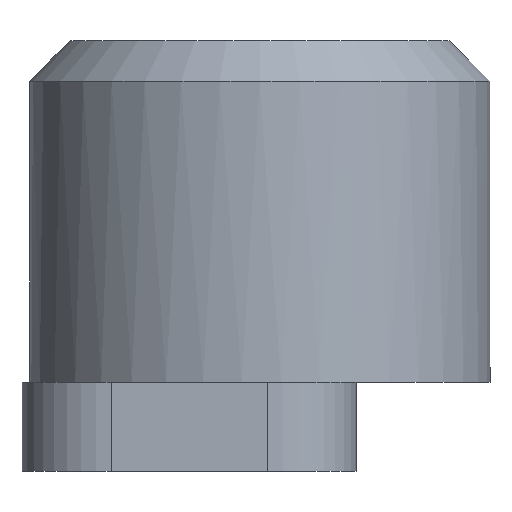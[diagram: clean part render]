
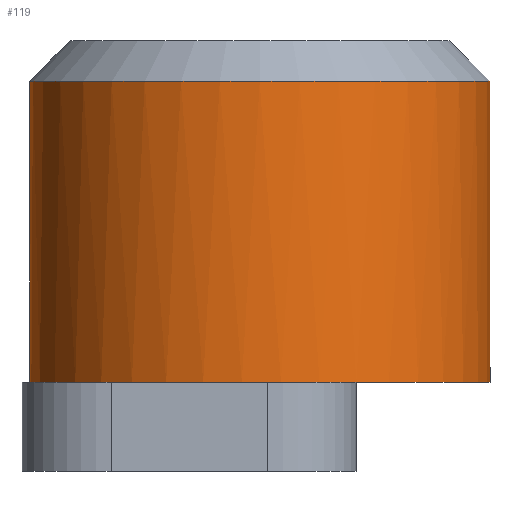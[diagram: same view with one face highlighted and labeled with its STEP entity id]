
A CAD part, left-side view. The second image highlights one B-rep face of the part: STEP entity #119.
In plain terms, the highlighted cylindrical face has radius 3.1 mm (diameter 6.2 mm), a full revolution.
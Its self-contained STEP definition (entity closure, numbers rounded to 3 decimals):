
#39 = EDGE_CURVE('',#40,#40,#42,.T.);
#40 = VERTEX_POINT('',#41);
#41 = CARTESIAN_POINT('',(87.1,74.65,18.2));
#42 = SURFACE_CURVE('',#43,(#48,#59),.PCURVE_S1.);
#43 = CIRCLE('',#44,3.1);
#44 = AXIS2_PLACEMENT_3D('',#45,#46,#47);
#45 = CARTESIAN_POINT('',(84.,74.65,18.2));
#46 = DIRECTION('',(0.,-1.,0.));
#47 = DIRECTION('',(1.,0.,0.));
#48 = PCURVE('',#49,#54);
#49 = CONICAL_SURFACE('',#50,3.1,0.785);
#50 = AXIS2_PLACEMENT_3D('',#51,#52,#53);
#51 = CARTESIAN_POINT('',(84.,74.65,18.2));
#52 = DIRECTION('',(0.,-1.,0.));
#53 = DIRECTION('',(1.,0.,0.));
#54 = DEFINITIONAL_REPRESENTATION('',(#55),#58);
#55 = B_SPLINE_CURVE_WITH_KNOTS('',1,(#56,#57),.UNSPECIFIED.,.F.,.F.,(2,
    2),(0.,6.283),.PIECEWISE_BEZIER_KNOTS.);
#56 = CARTESIAN_POINT('',(0.,0.));
#57 = CARTESIAN_POINT('',(6.283,0.));
#58 = ( GEOMETRIC_REPRESENTATION_CONTEXT(2) 
PARAMETRIC_REPRESENTATION_CONTEXT() REPRESENTATION_CONTEXT('2D SPACE',''
  ) );
#59 = PCURVE('',#60,#65);
#60 = CYLINDRICAL_SURFACE('',#61,3.1);
#61 = AXIS2_PLACEMENT_3D('',#62,#63,#64);
#62 = CARTESIAN_POINT('',(84.,70.6,18.2));
#63 = DIRECTION('',(0.,-1.,0.));
#64 = DIRECTION('',(1.,0.,0.));
#65 = DEFINITIONAL_REPRESENTATION('',(#66),#70);
#66 = LINE('',#67,#68);
#67 = CARTESIAN_POINT('',(0.,-4.05));
#68 = VECTOR('',#69,1.);
#69 = DIRECTION('',(1.,0.));
#70 = ( GEOMETRIC_REPRESENTATION_CONTEXT(2) 
PARAMETRIC_REPRESENTATION_CONTEXT() REPRESENTATION_CONTEXT('2D SPACE',''
  ) );
#119 = ADVANCED_FACE('',(#120),#60,.T.);
#120 = FACE_BOUND('',#121,.T.);
#121 = EDGE_LOOP('',(#122,#145,#174,#203,#225,#226));
#122 = ORIENTED_EDGE('',*,*,#123,.F.);
#123 = EDGE_CURVE('',#124,#40,#126,.T.);
#124 = VERTEX_POINT('',#125);
#125 = CARTESIAN_POINT('',(87.1,70.6,18.2));
#126 = SEAM_CURVE('',#127,(#131,#138),.PCURVE_S1.);
#127 = LINE('',#128,#129);
#128 = CARTESIAN_POINT('',(87.1,70.6,18.2));
#129 = VECTOR('',#130,1.);
#130 = DIRECTION('',(-0.,1.,-0.));
#131 = PCURVE('',#60,#132);
#132 = DEFINITIONAL_REPRESENTATION('',(#133),#137);
#133 = LINE('',#134,#135);
#134 = CARTESIAN_POINT('',(6.283,0.));
#135 = VECTOR('',#136,1.);
#136 = DIRECTION('',(0.,-1.));
#137 = ( GEOMETRIC_REPRESENTATION_CONTEXT(2) 
PARAMETRIC_REPRESENTATION_CONTEXT() REPRESENTATION_CONTEXT('2D SPACE',''
  ) );
#138 = PCURVE('',#60,#139);
#139 = DEFINITIONAL_REPRESENTATION('',(#140),#144);
#140 = LINE('',#141,#142);
#141 = CARTESIAN_POINT('',(0.,0.));
#142 = VECTOR('',#143,1.);
#143 = DIRECTION('',(0.,-1.));
#144 = ( GEOMETRIC_REPRESENTATION_CONTEXT(2) 
PARAMETRIC_REPRESENTATION_CONTEXT() REPRESENTATION_CONTEXT('2D SPACE',''
  ) );
#145 = ORIENTED_EDGE('',*,*,#146,.F.);
#146 = EDGE_CURVE('',#147,#124,#149,.T.);
#147 = VERTEX_POINT('',#148);
#148 = CARTESIAN_POINT('',(81.186,70.6,19.5));
#149 = SURFACE_CURVE('',#150,(#155,#162),.PCURVE_S1.);
#150 = CIRCLE('',#151,3.1);
#151 = AXIS2_PLACEMENT_3D('',#152,#153,#154);
#152 = CARTESIAN_POINT('',(84.,70.6,18.2));
#153 = DIRECTION('',(0.,-1.,0.));
#154 = DIRECTION('',(1.,0.,0.));
#155 = PCURVE('',#60,#156);
#156 = DEFINITIONAL_REPRESENTATION('',(#157),#161);
#157 = LINE('',#158,#159);
#158 = CARTESIAN_POINT('',(0.,0.));
#159 = VECTOR('',#160,1.);
#160 = DIRECTION('',(1.,0.));
#161 = ( GEOMETRIC_REPRESENTATION_CONTEXT(2) 
PARAMETRIC_REPRESENTATION_CONTEXT() REPRESENTATION_CONTEXT('2D SPACE',''
  ) );
#162 = PCURVE('',#163,#168);
#163 = PLANE('',#164);
#164 = AXIS2_PLACEMENT_3D('',#165,#166,#167);
#165 = CARTESIAN_POINT('',(84.,70.6,17.25));
#166 = DIRECTION('',(0.,-1.,0.));
#167 = DIRECTION('',(1.,0.,0.));
#168 = DEFINITIONAL_REPRESENTATION('',(#169),#173);
#169 = CIRCLE('',#170,3.1);
#170 = AXIS2_PLACEMENT_2D('',#171,#172);
#171 = CARTESIAN_POINT('',(0.,0.95));
#172 = DIRECTION('',(1.,0.));
#173 = ( GEOMETRIC_REPRESENTATION_CONTEXT(2) 
PARAMETRIC_REPRESENTATION_CONTEXT() REPRESENTATION_CONTEXT('2D SPACE',''
  ) );
#174 = ORIENTED_EDGE('',*,*,#175,.F.);
#175 = EDGE_CURVE('',#176,#147,#178,.T.);
#176 = VERTEX_POINT('',#177);
#177 = CARTESIAN_POINT('',(86.814,70.6,19.5));
#178 = SURFACE_CURVE('',#179,(#184,#191),.PCURVE_S1.);
#179 = CIRCLE('',#180,3.1);
#180 = AXIS2_PLACEMENT_3D('',#181,#182,#183);
#181 = CARTESIAN_POINT('',(84.,70.6,18.2));
#182 = DIRECTION('',(0.,-1.,0.));
#183 = DIRECTION('',(1.,0.,0.));
#184 = PCURVE('',#60,#185);
#185 = DEFINITIONAL_REPRESENTATION('',(#186),#190);
#186 = LINE('',#187,#188);
#187 = CARTESIAN_POINT('',(0.,0.));
#188 = VECTOR('',#189,1.);
#189 = DIRECTION('',(1.,0.));
#190 = ( GEOMETRIC_REPRESENTATION_CONTEXT(2) 
PARAMETRIC_REPRESENTATION_CONTEXT() REPRESENTATION_CONTEXT('2D SPACE',''
  ) );
#191 = PCURVE('',#192,#197);
#192 = PLANE('',#193);
#193 = AXIS2_PLACEMENT_3D('',#194,#195,#196);
#194 = CARTESIAN_POINT('',(84.,70.6,18.2));
#195 = DIRECTION('',(0.,-1.,0.));
#196 = DIRECTION('',(1.,0.,0.));
#197 = DEFINITIONAL_REPRESENTATION('',(#198),#202);
#198 = CIRCLE('',#199,3.1);
#199 = AXIS2_PLACEMENT_2D('',#200,#201);
#200 = CARTESIAN_POINT('',(0.,0.));
#201 = DIRECTION('',(1.,0.));
#202 = ( GEOMETRIC_REPRESENTATION_CONTEXT(2) 
PARAMETRIC_REPRESENTATION_CONTEXT() REPRESENTATION_CONTEXT('2D SPACE',''
  ) );
#203 = ORIENTED_EDGE('',*,*,#204,.F.);
#204 = EDGE_CURVE('',#124,#176,#205,.T.);
#205 = SURFACE_CURVE('',#206,(#211,#218),.PCURVE_S1.);
#206 = CIRCLE('',#207,3.1);
#207 = AXIS2_PLACEMENT_3D('',#208,#209,#210);
#208 = CARTESIAN_POINT('',(84.,70.6,18.2));
#209 = DIRECTION('',(0.,-1.,0.));
#210 = DIRECTION('',(1.,0.,0.));
#211 = PCURVE('',#60,#212);
#212 = DEFINITIONAL_REPRESENTATION('',(#213),#217);
#213 = LINE('',#214,#215);
#214 = CARTESIAN_POINT('',(0.,0.));
#215 = VECTOR('',#216,1.);
#216 = DIRECTION('',(1.,0.));
#217 = ( GEOMETRIC_REPRESENTATION_CONTEXT(2) 
PARAMETRIC_REPRESENTATION_CONTEXT() REPRESENTATION_CONTEXT('2D SPACE',''
  ) );
#218 = PCURVE('',#163,#219);
#219 = DEFINITIONAL_REPRESENTATION('',(#220),#224);
#220 = CIRCLE('',#221,3.1);
#221 = AXIS2_PLACEMENT_2D('',#222,#223);
#222 = CARTESIAN_POINT('',(0.,0.95));
#223 = DIRECTION('',(1.,0.));
#224 = ( GEOMETRIC_REPRESENTATION_CONTEXT(2) 
PARAMETRIC_REPRESENTATION_CONTEXT() REPRESENTATION_CONTEXT('2D SPACE',''
  ) );
#225 = ORIENTED_EDGE('',*,*,#123,.T.);
#226 = ORIENTED_EDGE('',*,*,#39,.T.);
